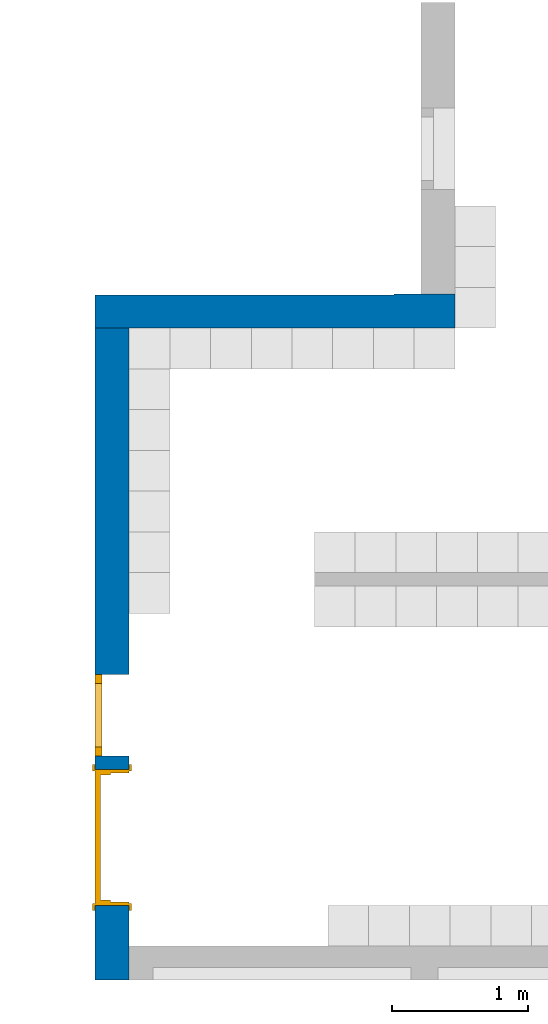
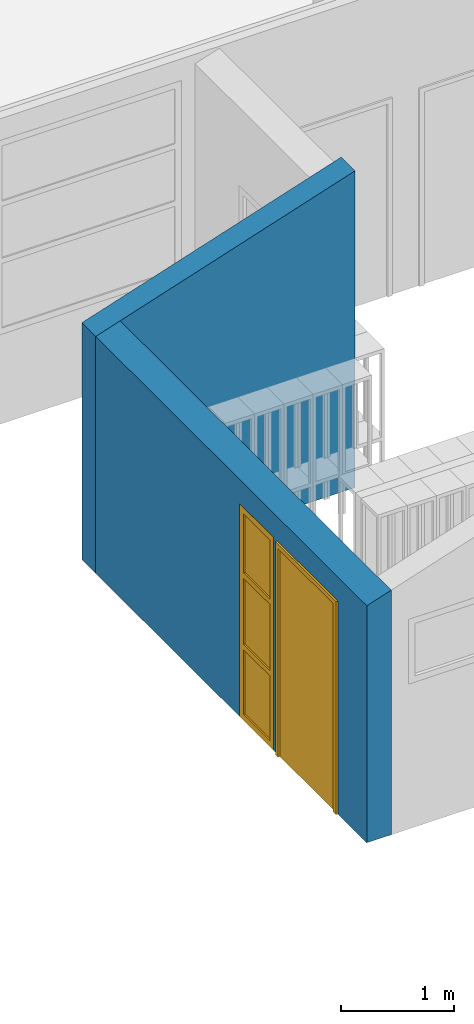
# One storey, part 16 of 25: 2 walls, 1 door, 1 window, 2 openings.
"""IFC2X3 building model written with IfcOpenShell, lengths in millimetres."""

from ifc_helpers import new_model, entity, si_unit, converted_unit, derived_unit, money_unit, direction, frame, origin_with_axes, place, context, subcontext, project, spatial, open_shell, faceted_brep, surface_model, material, type_object, element, fill, save


model = new_model("IFC2X3")

# Units and contexts
model_context = context("Model", 3, precision=0.01, world=origin_with_axes(), true_north=direction((0.0, 1.0)))
body_context = subcontext(model_context, "Body", "Model", "MODEL_VIEW")
ifc_project = project(units=[si_unit("LENGTHUNIT", "METRE", prefix="MILLI"), si_unit("AREAUNIT", "SQUARE_METRE"), si_unit("VOLUMEUNIT", "CUBIC_METRE"), converted_unit("PLANEANGLEUNIT", "DEGREE", entity("IfcPlaneAngleMeasure", 0.0174532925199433), si_unit("PLANEANGLEUNIT", "RADIAN"), dimensions=[0, 0, 0, 0, 0, 0, 0]), money_unit("USD"), converted_unit("TIMEUNIT", "Year", entity("IfcTimeMeasure", 31557600.0), si_unit("TIMEUNIT", "SECOND"), dimensions=[0, 0, 1, 0, 0, 0, 0]), si_unit("MASSUNIT", "GRAM", prefix="KILO"), si_unit("THERMODYNAMICTEMPERATUREUNIT", "DEGREE_CELSIUS"), si_unit("LUMINOUSINTENSITYUNIT", "LUMEN"), si_unit("ENERGYUNIT", "JOULE", prefix="MEGA"), derived_unit("THERMALCONDUCTANCEUNIT", [(si_unit("POWERUNIT", "WATT"), 1), (si_unit("LENGTHUNIT", "METRE"), -1), (si_unit("THERMODYNAMICTEMPERATUREUNIT", "KELVIN"), -1)]), derived_unit("SPECIFICHEATCAPACITYUNIT", [(si_unit("ENERGYUNIT", "JOULE"), 1), (si_unit("MASSUNIT", "GRAM", prefix="KILO"), -1), (si_unit("THERMODYNAMICTEMPERATUREUNIT", "KELVIN"), -1)]), derived_unit("MASSDENSITYUNIT", [(si_unit("MASSUNIT", "GRAM", prefix="KILO"), 1), (si_unit("VOLUMEUNIT", "CUBIC_METRE"), -1)])], contexts=[model_context])

# Site, building, storey
site_placement = place(None, origin_with_axes())
site = spatial("IfcSite", under=ifc_project, at=site_placement, Name="Site", CompositionType="ELEMENT")
building_placement = place(site_placement, origin_with_axes())
building = spatial("IfcBuilding", under=site, at=building_placement, Name="Building", CompositionType="ELEMENT")
storey_placement = place(building_placement, origin_with_axes())
storey = spatial("IfcBuildingStorey", under=building, at=storey_placement, Name="U ETG", CompositionType="ELEMENT", Elevation=0.0)

# Wall, openings, window, door
ifc_material = material(Name="GENERIC - INTERNAL FILLER")
wall_type = type_object("IfcWallType", Name="GENERIC - INTERNAL FILLER 250", PredefinedType="NOTDEFINED")
wall_1_placement = place(storey_placement, frame((61749.71606363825, 4805.012563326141, 0.0), z_axis=(0.0, 0.0, 1.0), x_axis=(-4.237757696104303e-05, -0.9999999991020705, 0.0)))
wall_1 = element("IfcWall", 1, at=wall_1_placement, inside=storey, type_object=wall_type, material=ifc_material, Name="SW - 001", context=body_context, shape_type="Brep", body=[
    faceted_brep([(4375.000000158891, 124.9999999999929, 0.0), (4375.000000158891, 125.0, 2265.018749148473), (3375.000000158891, 124.9999999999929, 2265.018749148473), (3375.000000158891, 124.9999999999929, 0.0), (3275.00000015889, 124.9999999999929, 0.0), (3275.00000015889, 124.9999999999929, 2299.727162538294), (2675.000000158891, 124.9999999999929, 2299.727162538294), (2675.000000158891, 124.9999999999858, 0.0), (125.0, 124.9999999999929, 0.0), (125.0, 124.9999999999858, 2643.504575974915), (4925.000000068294, 124.9999999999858, 2643.438484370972), (4925.000000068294, 124.9999999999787, 0.0), (4375.000000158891, -125.0000000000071, 0.0), (4375.000000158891, -125.0000000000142, 2265.018749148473), (3375.000000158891, -125.0000000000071, 2265.018749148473), (3375.000000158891, -125.0, 0.0), (3275.00000015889, -125.0, 0.0), (3275.00000015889, -125.0000000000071, 2299.727162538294), (2675.00000015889, -125.0, 2299.727162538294), (2675.00000015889, -125.0, 0.0), (125.0000000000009, -125.0, 0.0), (125.0000000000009, -125.0000000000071, 2562.275980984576), (4925.000000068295, -125.0000000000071, 2562.209889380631), (4925.000000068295, -125.0000000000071, 0.0)], [[[0, 1, 2, 3, 4, 5, 6, 7, 8, 9, 10, 11]], [[1, 0, 12, 13]], [[2, 1, 13, 14]], [[3, 2, 14, 15]], [[3, 15, 16, 4]], [[4, 16, 17, 5]], [[5, 17, 18, 6]], [[6, 18, 19, 7]], [[19, 20, 8, 7]], [[9, 8, 20, 21]], [[9, 21, 22, 10]], [[22, 23, 11, 10]], [[12, 0, 11, 23]], [[13, 12, 23, 22, 21, 20, 19, 18, 17, 16, 15, 14]]]),
])
opening_1_placement = place(wall_1_placement, frame((2975.000000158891, 0.0, 0.0), z_axis=(0.0, 0.0, 1.0), x_axis=(1.0, 0.0, 0.0)))
opening_1 = element("IfcOpeningElement", 2, at=opening_1_placement, cuts=wall_1, Name="WD - 001", context=body_context, shape_type="Brep", body=[
    faceted_brep([(300.0000000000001, 126.203412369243, 2299.727162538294), (300.0000000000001, 126.203412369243, 0.0), (-299.9999999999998, 126.2034123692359, 0.0), (-299.9999999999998, 126.2034123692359, 2299.727162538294), (300.0000000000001, -126.203412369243, 2299.727162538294), (300.0000000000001, -126.203412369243, 0.0), (-300.0000000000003, -126.2034123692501, 0.0), (-300.0000000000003, -126.2034123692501, 2299.727162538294)], [[[0, 1, 2, 3]], [[4, 5, 1, 0]], [[5, 6, 2, 1]], [[6, 7, 3, 2]], [[7, 4, 0, 3]], [[6, 5, 4, 7]]]),
])
opening_2_placement = place(wall_1_placement, frame((3875.000000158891, 0.0, 0.0), z_axis=(0.0, 0.0, 1.0), x_axis=(1.0, 0.0, 0.0)))
opening_2 = element("IfcOpeningElement", 3, at=opening_2_placement, cuts=wall_1, Name="DOO - 002", context=body_context, shape_type="Brep", body=[
    faceted_brep([(-500.0, -124.9999999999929, 0.0), (-500.0, -124.9999999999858, 2265.018749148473), (-500.0, 125.0000000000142, 2265.018749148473), (-500.0, 125.0000000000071, 0.0), (500.0, -124.9999999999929, 2265.018749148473), (-536.9999999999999, -124.9999999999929, 0.0), (-536.9999999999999, -124.9999999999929, 2302.018749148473), (537.0, -124.9999999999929, 2302.018749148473), (537.0, -124.9999999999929, 0.0), (500.0, -124.9999999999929, 0.0), (500.0000000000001, 125.0000000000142, 2265.018749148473), (500.0000000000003, 125.0000000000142, 0.0), (537.0000000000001, 125.0000000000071, 0.0), (537.0000000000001, 125.0000000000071, 2302.018749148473), (-536.9999999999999, 125.0000000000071, 2302.018749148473), (-536.9999999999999, 125.0000000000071, 0.0), (-500.0, -126.2034123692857, 0.0), (-500.0, 126.2034123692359, 0.0), (500.0000000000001, 126.2034123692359, 0.0), (500.0000000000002, -126.2034123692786, 0.0), (-536.9999999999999, -126.2034123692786, 0.0), (-536.9999999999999, -126.2034123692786, 2302.018749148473), (537.0, -126.2034123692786, 2302.018749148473), (537.0, -126.2034123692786, 0.0), (537.0000000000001, 126.2034123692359, 0.0), (537.0000000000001, 126.2034123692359, 2302.018749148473), (-536.9999999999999, 126.203412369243, 2302.018749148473), (-536.9999999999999, 126.203412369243, 0.0), (-500.0, -126.2034123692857, 2265.018749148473), (500.0, -126.2034123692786, 2265.018749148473)], [[[0, 1, 2, 3]], [[4, 1, 0, 5, 6, 7, 8, 9]], [[1, 4, 10, 2]], [[3, 2, 10, 11, 12, 13, 14, 15]], [[16, 0, 3, 17, 18, 11, 9, 19]], [[0, 16, 20, 5]], [[6, 5, 20, 21]], [[7, 6, 21, 22]], [[8, 7, 22, 23]], [[19, 9, 8, 23]], [[4, 9, 11, 10]], [[11, 18, 24, 12]], [[13, 12, 24, 25]], [[14, 13, 25, 26]], [[15, 14, 26, 27]], [[17, 3, 15, 27]], [[17, 27, 26, 25, 24, 18]], [[28, 16, 19, 29]], [[16, 28, 29, 19, 23, 22, 21, 20]]]),
])
window_style = type_object("IfcWindowStyle", Name="Vindu variabelt", ConstructionType="NOTDEFINED", OperationType="TRIPLE_PANEL_HORIZONTAL", ParameterTakesPrecedence=False, Sizeable=False)
window_placement = place(opening_1_placement, frame((300.0000000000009, 0.0, 0.0), z_axis=(0.0, 0.0, 1.0), x_axis=(-1.0, 0.0, 0.0)))
window = element("IfcWindow", 4, at=window_placement, inside=storey, type_object=window_style, Name="WD - 001", ObjectType="WINDOW", OverallHeight=2299.73, OverallWidth=600.0, context=body_context, shape_type="SurfaceModel", body=[
    faceted_brep([(66.00000000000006, 74.99999999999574, 764.4329028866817), (65.99999999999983, 125.0, 764.4329028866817), (65.99999999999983, 125.0, 820.4329028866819), (66.00000000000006, 74.99999999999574, 820.4329028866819), (66.00000000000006, 74.99999999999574, 66.0), (65.99999999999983, 125.0, 66.0), (0.0, 124.9999999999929, 66.0), (0.0, 124.9999999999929, 2233.727162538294), (65.99999999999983, 125.0, 2233.727162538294), (65.99999999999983, 125.0, 1593.018749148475), (65.99999999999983, 125.0, 1537.018749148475), (66.00000000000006, 74.99999999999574, 1537.018749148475), (66.00000000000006, 74.99999999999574, 1593.018749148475), (66.00000000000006, 74.99999999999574, 2233.727162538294), (0.0, 74.99999999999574, 2233.727162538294), (0.0, 74.99999999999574, 66.0)], [[[0, 1, 2, 3]], [[4, 5, 1, 0]], [[1, 5, 6, 7, 8, 9, 10, 2]], [[3, 2, 10, 11]], [[0, 3, 11, 12, 13, 14, 15, 4]], [[15, 6, 5, 4]], [[14, 7, 6, 15]], [[13, 8, 7, 14]], [[12, 9, 8, 13]], [[11, 10, 9, 12]]]),
    faceted_brep([(534.0, 74.99999999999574, 66.0), (534.0, 125.0, 66.0), (599.9999999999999, 124.9999999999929, 66.0), (600.0000000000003, 74.99999999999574, 66.0), (534.0, 74.99999999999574, 764.4329028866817), (534.0, 125.0, 764.4329028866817), (534.0, 125.0, 820.4329028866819), (534.0, 125.0, 1537.018749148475), (534.0, 125.0, 1593.018749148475), (534.0, 125.0, 2233.727162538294), (599.9999999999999, 124.9999999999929, 2233.727162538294), (600.0000000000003, 74.99999999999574, 2233.727162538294), (534.0, 74.99999999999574, 2233.727162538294), (534.0, 74.99999999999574, 1593.018749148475), (534.0, 74.99999999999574, 1537.018749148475), (534.0, 74.99999999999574, 820.4329028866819)], [[[0, 1, 2, 3]], [[4, 5, 1, 0]], [[1, 5, 6, 7, 8, 9, 10, 2]], [[3, 2, 10, 11]], [[0, 3, 11, 12, 13, 14, 15, 4]], [[15, 6, 5, 4]], [[14, 7, 6, 15]], [[13, 8, 7, 14]], [[12, 9, 8, 13]], [[11, 10, 9, 12]]]),
    faceted_brep([(66.00000000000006, 74.99999999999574, 1593.018749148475), (65.99999999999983, 125.0, 1593.018749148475), (65.99999999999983, 125.0, 1537.018749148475), (66.00000000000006, 74.99999999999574, 1537.018749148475), (534.0, 74.99999999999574, 1593.018749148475), (534.0, 125.0, 1593.018749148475), (534.0, 125.0, 1537.018749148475), (534.0, 74.99999999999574, 1537.018749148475)], [[[0, 1, 2, 3]], [[4, 5, 1, 0]], [[1, 5, 6, 2]], [[3, 2, 6, 7]], [[0, 3, 7, 4]], [[7, 6, 5, 4]]]),
    faceted_brep([(66.00000000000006, 74.99999999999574, 764.4329028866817), (65.99999999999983, 125.0, 764.4329028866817), (534.0, 125.0, 764.4329028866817), (534.0, 74.99999999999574, 764.4329028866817), (66.00000000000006, 74.99999999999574, 820.4329028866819), (65.99999999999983, 125.0, 820.4329028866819), (534.0, 125.0, 820.4329028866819), (534.0, 74.99999999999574, 820.4329028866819)], [[[0, 1, 2, 3]], [[4, 5, 1, 0]], [[1, 5, 6, 2]], [[3, 2, 6, 7]], [[0, 3, 7, 4]], [[7, 6, 5, 4]]]),
    faceted_brep([(66.00000000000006, 74.99999999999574, 66.0), (65.99999999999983, 125.0, 66.0), (0.0, 124.9999999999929, 66.0), (0.0, 74.99999999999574, 66.0), (534.0, 74.99999999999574, 66.0), (534.0, 125.0, 66.0), (599.9999999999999, 124.9999999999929, 66.0), (599.9999999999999, 124.9999999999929, 0.0), (0.0, 124.9999999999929, 0.0), (0.0, 74.99999999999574, 0.0), (600.0000000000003, 74.99999999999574, 0.0), (600.0000000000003, 74.99999999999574, 66.0)], [[[0, 1, 2, 3]], [[4, 5, 1, 0]], [[1, 5, 6, 7, 8, 2]], [[3, 2, 8, 9]], [[0, 3, 9, 10, 11, 4]], [[11, 6, 5, 4]], [[10, 7, 6, 11]], [[9, 8, 7, 10]]]),
    faceted_brep([(534.0, 74.99999999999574, 2233.727162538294), (534.0, 125.0, 2233.727162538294), (599.9999999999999, 124.9999999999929, 2233.727162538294), (600.0000000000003, 74.99999999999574, 2233.727162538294), (66.00000000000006, 74.99999999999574, 2233.727162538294), (65.99999999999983, 125.0, 2233.727162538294), (0.0, 124.9999999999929, 2233.727162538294), (0.0, 124.9999999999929, 2299.727162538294), (599.9999999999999, 124.9999999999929, 2299.727162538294), (600.0000000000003, 74.99999999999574, 2299.727162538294), (0.0, 74.99999999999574, 2299.727162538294), (0.0, 74.99999999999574, 2233.727162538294)], [[[0, 1, 2, 3]], [[4, 5, 1, 0]], [[1, 5, 6, 7, 8, 2]], [[3, 2, 8, 9]], [[0, 3, 9, 10, 11, 4]], [[11, 6, 5, 4]], [[10, 7, 6, 11]], [[9, 8, 7, 10]]]),
    surface_model("IfcShellBasedSurfaceModel", [(65.99999999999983, 90.00000000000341, 1593.018749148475), (534.0, 89.9999999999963, 1593.018749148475), (534.0, 89.9999999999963, 2233.727162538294), (65.99999999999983, 90.00000000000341, 2233.727162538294)], [open_shell([[[0, 1, 2, 3]]])]),
    surface_model("IfcShellBasedSurfaceModel", [(65.99999999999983, 109.9999999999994, 1593.018749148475), (65.99999999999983, 109.9999999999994, 2233.727162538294), (533.9999999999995, 109.9999999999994, 2233.727162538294), (533.9999999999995, 109.9999999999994, 1593.018749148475)], [open_shell([[[0, 1, 2, 3]]])]),
    surface_model("IfcShellBasedSurfaceModel", [(65.99999999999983, 90.00000000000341, 820.4329028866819), (534.0, 89.9999999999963, 820.4329028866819), (534.0, 89.9999999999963, 1537.018749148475), (65.99999999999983, 90.00000000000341, 1537.018749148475)], [open_shell([[[0, 1, 2, 3]]])]),
    surface_model("IfcShellBasedSurfaceModel", [(65.99999999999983, 109.9999999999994, 820.4329028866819), (65.99999999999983, 109.9999999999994, 1537.018749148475), (533.9999999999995, 109.9999999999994, 1537.018749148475), (533.9999999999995, 110.0000000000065, 820.4329028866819)], [open_shell([[[0, 1, 2, 3]]])]),
    surface_model("IfcShellBasedSurfaceModel", [(65.99999999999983, 90.00000000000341, 66.0), (534.0, 89.9999999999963, 66.0), (534.0, 89.9999999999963, 764.4329028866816), (65.99999999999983, 90.00000000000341, 764.4329028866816)], [open_shell([[[0, 1, 2, 3]]])]),
    surface_model("IfcShellBasedSurfaceModel", [(65.99999999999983, 109.9999999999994, 66.0), (65.99999999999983, 109.9999999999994, 764.4329028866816), (533.9999999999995, 110.0000000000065, 764.4329028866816), (533.9999999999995, 110.0000000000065, 66.0)], [open_shell([[[0, 1, 2, 3]]])]),
])
fill(opening_1, window)
door_style = type_object("IfcDoorStyle", Name="Dør", ConstructionType="NOTDEFINED", OperationType="SINGLE_SWING_LEFT", ParameterTakesPrecedence=False, Sizeable=False)
door_placement = place(opening_2_placement, frame((500.0000000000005, 0.0, 0.0), z_axis=(0.0, 0.0, 1.0), x_axis=(-1.0, 0.0, 0.0)))
door = element("IfcDoor", 5, at=door_placement, inside=storey, type_object=door_style, Name="DOO - 002", ObjectType="DOOR", OverallHeight=2265.02, OverallWidth=1000.0, context=body_context, shape_type="Brep", body=[
    faceted_brep([(1000.0, 9.99999999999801, 0.0), (1000.0, -125.0000000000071, 0.0), (974.9999999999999, -125.0, 0.0), (975.0000000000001, 9.999999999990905, 0.0), (1000.0, 9.99999999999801, 2265.018749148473), (1000.0, -125.0000000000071, 2265.018749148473), (974.9999999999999, -125.0, 2240.018749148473), (975.0000000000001, 9.999999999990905, 2240.018749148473)], [[[0, 1, 2, 3]], [[4, 5, 1, 0]], [[1, 5, 6, 2]], [[3, 2, 6, 7]], [[0, 3, 7, 4]], [[7, 6, 5, 4]]]),
    faceted_brep([(0.0, 9.999999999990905, 2265.018749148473), (0.0, -125.0000000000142, 2265.018749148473), (24.9999999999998, -125.0000000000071, 2240.018749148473), (24.99999999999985, 9.999999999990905, 2240.018749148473), (0.0, 9.999999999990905, 0.0), (0.0, -125.0000000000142, 0.0), (24.9999999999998, -125.0, 0.0), (24.99999999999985, 9.999999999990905, 0.0)], [[[0, 1, 2, 3]], [[4, 5, 1, 0]], [[1, 5, 6, 2]], [[3, 2, 6, 7]], [[0, 3, 7, 4]], [[7, 6, 5, 4]]]),
    faceted_brep([(975.0000000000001, 9.999999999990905, 2240.018749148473), (974.9999999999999, -125.0, 2240.018749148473), (24.9999999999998, -125.0000000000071, 2240.018749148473), (24.99999999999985, 9.999999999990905, 2240.018749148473), (1000.0, 9.99999999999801, 2265.018749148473), (1000.0, -125.0000000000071, 2265.018749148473), (0.0, -125.0000000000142, 2265.018749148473), (0.0, 9.999999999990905, 2265.018749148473)], [[[0, 1, 2, 3]], [[4, 5, 1, 0]], [[1, 5, 6, 2]], [[3, 2, 6, 7]], [[0, 3, 7, 4]], [[7, 6, 5, 4]]]),
    faceted_brep([(1037.0, -144.0000000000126, 0.0), (986.9999999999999, -144.0000000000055, 0.0), (986.9999999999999, -125.0, 0.0), (1037.0, -125.0000000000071, 0.0), (1037.0, -144.0000000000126, 2302.018749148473), (986.9999999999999, -144.0000000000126, 2252.018749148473), (986.9999999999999, -125.0, 2252.018749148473), (1037.0, -125.0000000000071, 2302.018749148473)], [[[0, 1, 2, 3]], [[0, 4, 5, 1]], [[1, 5, 6, 2]], [[3, 2, 6, 7]], [[4, 0, 3, 7]], [[5, 4, 7, 6]]]),
    faceted_brep([(-37.0000000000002, -144.0000000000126, 2302.018749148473), (12.99999999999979, -144.0000000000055, 2252.018749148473), (12.99999999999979, -125.0000000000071, 2252.018749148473), (-37.0000000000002, -125.0000000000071, 2302.018749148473), (-37.0000000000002, -144.0000000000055, 0.0), (12.99999999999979, -144.0000000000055, 0.0), (12.99999999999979, -125.0000000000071, 0.0), (-37.0000000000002, -125.0000000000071, 0.0)], [[[0, 1, 2, 3]], [[0, 4, 5, 1]], [[1, 5, 6, 2]], [[3, 2, 6, 7]], [[4, 0, 3, 7]], [[5, 4, 7, 6]]]),
    faceted_brep([(1037.0, -144.0000000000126, 2302.018749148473), (986.9999999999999, -144.0000000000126, 2252.018749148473), (986.9999999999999, -125.0, 2252.018749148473), (1037.0, -125.0000000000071, 2302.018749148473), (-37.0000000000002, -144.0000000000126, 2302.018749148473), (12.99999999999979, -144.0000000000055, 2252.018749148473), (12.99999999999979, -125.0000000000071, 2252.018749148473), (-37.0000000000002, -125.0000000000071, 2302.018749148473)], [[[0, 1, 2, 3]], [[0, 4, 5, 1]], [[1, 5, 6, 2]], [[3, 2, 6, 7]], [[4, 0, 3, 7]], [[5, 4, 7, 6]]]),
    faceted_brep([(1037.0, 143.9999999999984, 0.0), (1037.0, 124.9999999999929, 0.0), (986.9999999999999, 125.0, 0.0), (987.0000000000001, 143.9999999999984, 0.0), (1037.0, 143.9999999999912, 2302.018749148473), (1037.0, 124.9999999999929, 2302.018749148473), (986.9999999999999, 125.0, 2252.018749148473), (987.0000000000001, 143.9999999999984, 2252.018749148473)], [[[0, 1, 2, 3]], [[4, 5, 1, 0]], [[1, 5, 6, 2]], [[3, 2, 6, 7]], [[0, 3, 7, 4]], [[7, 6, 5, 4]]]),
    faceted_brep([(-37.00000000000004, 143.9999999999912, 2302.018749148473), (-37.00000000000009, 124.9999999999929, 2302.018749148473), (12.9999999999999, 124.9999999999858, 2252.018749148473), (12.99999999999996, 143.9999999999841, 2252.018749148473), (-37.00000000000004, 143.9999999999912, 0.0), (-37.00000000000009, 124.9999999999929, 0.0), (12.9999999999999, 124.9999999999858, 0.0), (12.99999999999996, 143.9999999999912, 0.0)], [[[0, 1, 2, 3]], [[4, 5, 1, 0]], [[1, 5, 6, 2]], [[3, 2, 6, 7]], [[0, 3, 7, 4]], [[7, 6, 5, 4]]]),
    faceted_brep([(1037.0, 143.9999999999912, 2302.018749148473), (1037.0, 124.9999999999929, 2302.018749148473), (986.9999999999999, 125.0, 2252.018749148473), (987.0000000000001, 143.9999999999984, 2252.018749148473), (-37.00000000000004, 143.9999999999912, 2302.018749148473), (-37.00000000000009, 124.9999999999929, 2302.018749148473), (12.9999999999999, 124.9999999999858, 2252.018749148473), (12.99999999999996, 143.9999999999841, 2252.018749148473)], [[[0, 1, 2, 3]], [[4, 5, 1, 0]], [[1, 5, 6, 2]], [[3, 2, 6, 7]], [[0, 3, 7, 4]], [[7, 6, 5, 4]]]),
    faceted_brep([(999.9999999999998, 124.9999999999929, 0.0), (1000.0, 9.99999999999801, 0.0), (960.0, 9.999999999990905, 0.0), (960.0, 125.0, 0.0), (999.9999999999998, 124.9999999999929, 2225.018749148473), (1000.0, 9.99999999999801, 2225.018749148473), (960.0, 9.999999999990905, 2225.018749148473), (960.0, 125.0, 2225.018749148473)], [[[0, 1, 2, 3]], [[4, 5, 1, 0]], [[1, 5, 6, 2]], [[3, 2, 6, 7]], [[0, 3, 7, 4]], [[7, 6, 5, 4]]]),
    faceted_brep([(0.0, 124.9999999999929, 0.0), (0.0, 9.999999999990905, 0.0), (0.0, 9.999999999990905, 2225.018749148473), (0.0, 124.9999999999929, 2225.018749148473), (39.99999999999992, 124.9999999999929, 0.0), (39.99999999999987, 9.999999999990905, 0.0), (39.99999999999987, 9.999999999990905, 2225.018749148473), (39.99999999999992, 124.9999999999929, 2225.018749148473)], [[[0, 1, 2, 3]], [[4, 5, 1, 0]], [[1, 5, 6, 2]], [[3, 2, 6, 7]], [[0, 3, 7, 4]], [[7, 6, 5, 4]]]),
    faceted_brep([(999.9999999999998, 124.9999999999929, 2265.018749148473), (1000.0, 9.99999999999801, 2265.018749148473), (1000.0, 9.99999999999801, 2225.018749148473), (999.9999999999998, 124.9999999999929, 2225.018749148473), (0.0, 124.9999999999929, 2265.018749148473), (0.0, 9.999999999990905, 2265.018749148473), (0.0, 9.999999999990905, 2225.018749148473), (39.99999999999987, 9.999999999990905, 2225.018749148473), (960.0, 9.999999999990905, 2225.018749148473), (960.0, 125.0, 2225.018749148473), (39.99999999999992, 124.9999999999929, 2225.018749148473), (0.0, 124.9999999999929, 2225.018749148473)], [[[0, 1, 2, 3]], [[4, 5, 1, 0]], [[1, 5, 6, 7, 8, 2]], [[3, 2, 8, 9]], [[0, 3, 9, 10, 11, 4]], [[11, 6, 5, 4]], [[10, 7, 6, 11]], [[9, 8, 7, 10]]]),
    faceted_brep([(40.00000000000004, 124.9999999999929, 0.0), (960.0, 125.0, 0.0), (960.0, 84.99999999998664, 0.0), (39.99999999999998, 84.99999999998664, 0.0), (40.00000000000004, 124.9999999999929, 2225.018749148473), (960.0, 125.0, 2225.018749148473), (960.0, 84.99999999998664, 2225.018749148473), (39.99999999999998, 84.99999999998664, 2225.018749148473)], [[[0, 1, 2, 3]], [[0, 4, 5, 1]], [[1, 5, 6, 2]], [[3, 2, 6, 7]], [[4, 0, 3, 7]], [[5, 4, 7, 6]]]),
])
fill(opening_2, door)

# Wall
wall_2_placement = place(storey_placement, frame((64150.17680980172, 4804.910837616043, 0.0), z_axis=(0.0, 0.0, 1.0), x_axis=(-0.9999999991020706, 4.237757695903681e-05, 0.0)))
element("IfcWall", 6, at=wall_2_placement, inside=storey, type_object=wall_type, material=ifc_material, Name="SW - 001", context=body_context, shape_type="Brep", body=[
    faceted_brep([(324.9330644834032, -124.9999999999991, 0.0), (324.9330644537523, -125.0, 3148.885550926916), (-125.0, -124.9999999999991, 3295.092577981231), (-125.0, -125.0, 0.0), (324.9328619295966, -120.2202599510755, 0.0), (324.9328619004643, -120.2202720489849, 3148.885550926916), (-125.0000000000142, -120.239338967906, 3295.092512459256), (-124.9999999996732, -120.2393363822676, 3423.45216846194), (-125.0, 125.0000000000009, 3423.448791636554), (-125.0, 125.0000000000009, 0.0), (2525.460748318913, 125.0, 0.0), (2525.460748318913, -120.1269953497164, 0.0), (2525.460748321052, -120.126995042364, 2562.279356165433), (324.9328619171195, -120.2202722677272, 3277.262511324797), (2525.460748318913, 125.0000000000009, 2562.275980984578)], [[[0, 1, 2, 3]], [[4, 5, 1, 0]], [[5, 6, 2, 1]], [[2, 6, 7, 8, 9, 3]], [[10, 11, 4, 0, 3, 9]], [[12, 13, 5, 4, 11]], [[5, 13, 7, 6]], [[8, 7, 13, 12, 14]], [[9, 8, 14, 10]], [[10, 14, 12, 11]]]),
])

save(model, "model.ifc")
